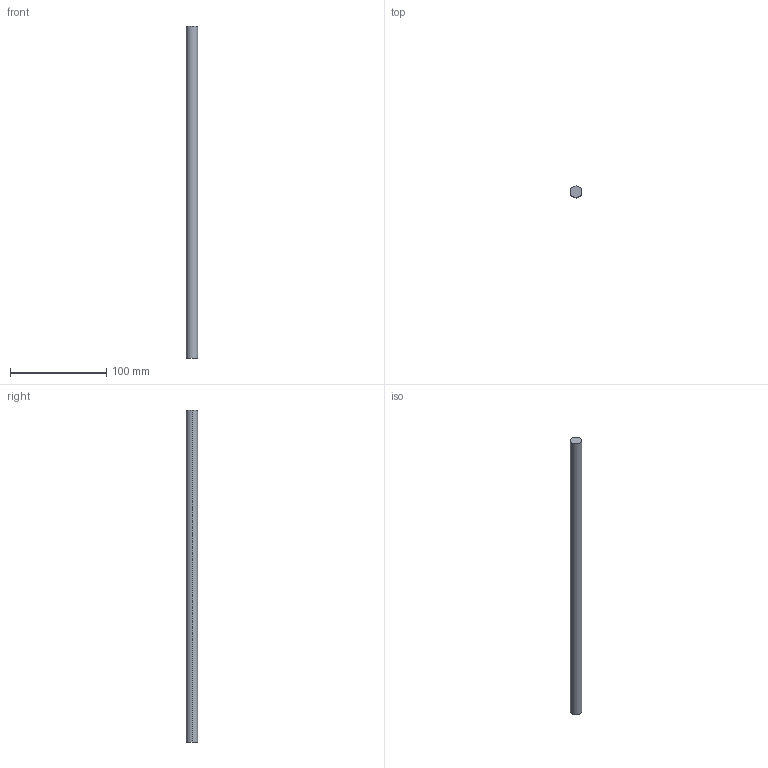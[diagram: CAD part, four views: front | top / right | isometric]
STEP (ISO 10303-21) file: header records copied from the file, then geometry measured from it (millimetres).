
FILE_DESCRIPTION (( 'STEP AP214' ), '1' );
FILE_NAME ('Magic Reling quer - S16_S17 - 450.step', '2010-09-07T14:56:06', ( 'grass' ), ( '' ), 'SwSTEP 2.0', 'SolidWorks 2010', '' );
FILE_SCHEMA (( 'AUTOMOTIVE_DESIGN' ));
Length unit declared in the file: millimetre
Products named in the file (1): Magic Reling quer - S16_S17 - 450
Bounding box: 12 x 12 x 345 mm (x, y, z)
Volume: 39018.6 mm3; surface area: 13232.4 mm2
Topology: 1 solids, 1 shells, 4 faces, 6 edges, 4 vertices
Faces by surface type: cylinder 2, plane 2
Entity records: 128 total; most frequent: DIRECTION 20, CARTESIAN_POINT 15, ORIENTED_EDGE 12, AXIS2_PLACEMENT_3D 9, EDGE_CURVE 6, ADVANCED_FACE 4, FACE_OUTER_BOUND 4, EDGE_LOOP 4
